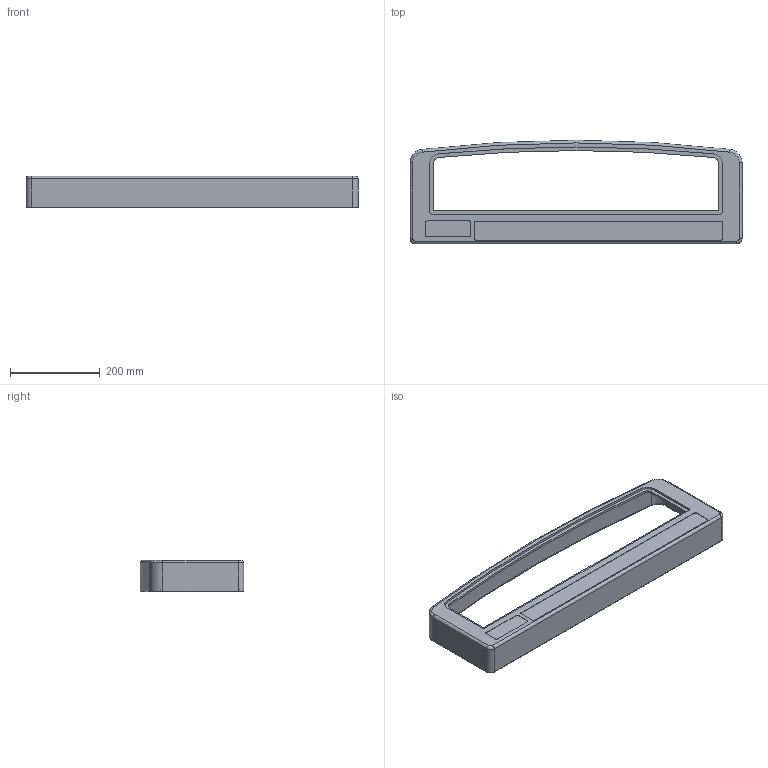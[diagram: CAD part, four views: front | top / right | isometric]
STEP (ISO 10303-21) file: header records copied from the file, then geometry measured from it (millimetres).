
FILE_DESCRIPTION(('Open CASCADE Model'),'2;1');
FILE_NAME('Open CASCADE Shape Model','2026-09-26T16:24:14',('Author'),( 'Open CASCADE'),'Open CASCADE STEP processor 7.9','Open CASCADE 7.9' ,'Unknown');
FILE_SCHEMA(('AUTOMOTIVE_DESIGN { 1 0 10303 214 1 1 1 1 }'));
Length unit declared in the file: millimetre
Products named in the file (1): Open CASCADE STEP translator 7.9 1
Bounding box: 738 x 230 x 70 mm (x, y, z)
Volume: 1255971.3 mm3; surface area: 415065.8 mm2
Topology: 1 solids, 1 shells, 77 faces, 194 edges, 124 vertices
Faces by surface type: cylinder 37, plane 30, torus 8, revolution 2
Entity records: 4879 total; most frequent: CARTESIAN_POINT 1024, DIRECTION 723, ORIENTED_EDGE 388, PCURVE 388, DEFINITIONAL_REPRESENTATION 388, LINE 354, VECTOR 354, EDGE_CURVE 194
